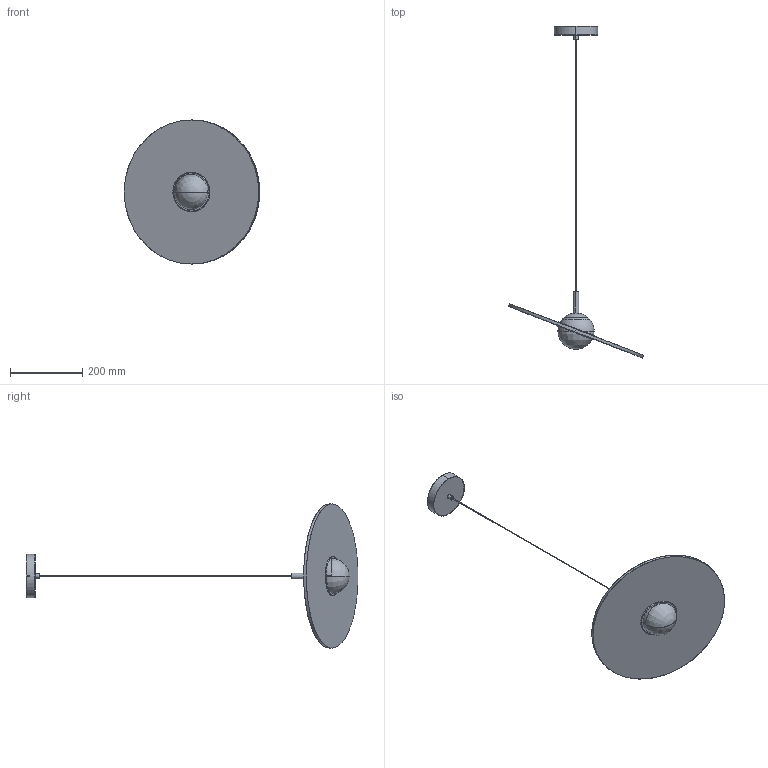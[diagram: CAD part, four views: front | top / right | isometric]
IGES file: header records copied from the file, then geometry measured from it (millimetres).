
Start section: SolidWorks IGES file using analytic representation for surfaces
Global section: file name: F:\燠隴矨\3D\2025-5\渾奻換\Planet Pendant Lamp.IGS; native system: SolidWorks 2022; preprocessor: SolidWorks 2022; author: MyPC; date: 250529.100158; units: millimetre
Bounding box: 376.3 x 921.41 x 400 mm (x, y, z)
Surface area: 372034.9 mm2 (no closed solid volume)
Topology: 0 solids, 0 shells, 244 faces, 3305 edges, 3302 vertices
Faces by surface type: bspline 178, revolution 66
